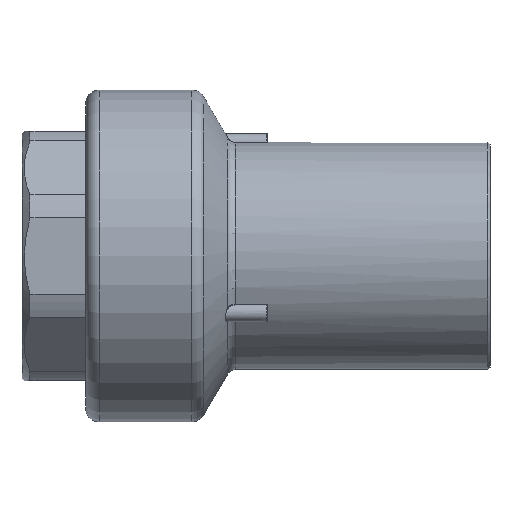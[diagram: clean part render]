
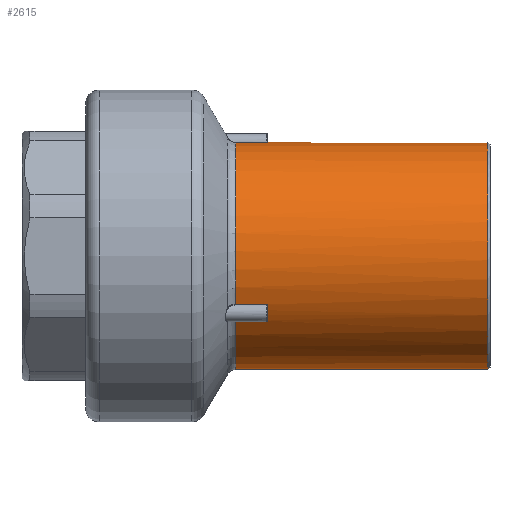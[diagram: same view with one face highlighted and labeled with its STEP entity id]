
A CAD part, front view. The second image highlights one B-rep face of the part: STEP entity #2615.
In plain terms, the highlighted cylindrical face has radius 25 mm (diameter 50 mm), a full revolution.
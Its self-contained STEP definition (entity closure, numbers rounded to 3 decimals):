
#70=B_SPLINE_CURVE_WITH_KNOTS('',3,(#4870,#4871,#4872,#4873),
 .UNSPECIFIED.,.F.,.F.,(4,4),(0.,0.),.UNSPECIFIED.);
#71=B_SPLINE_CURVE_WITH_KNOTS('',3,(#4892,#4893,#4894,#4895),
 .UNSPECIFIED.,.F.,.F.,(4,4),(0.,0.),.UNSPECIFIED.);
#72=B_SPLINE_CURVE_WITH_KNOTS('',3,(#4916,#4917,#4918,#4919),
 .UNSPECIFIED.,.F.,.F.,(4,4),(0.,0.),.UNSPECIFIED.);
#73=B_SPLINE_CURVE_WITH_KNOTS('',3,(#4938,#4939,#4940,#4941),
 .UNSPECIFIED.,.F.,.F.,(4,4),(0.,0.),.UNSPECIFIED.);
#74=B_SPLINE_CURVE_WITH_KNOTS('',3,(#4962,#4963,#4964,#4965),
 .UNSPECIFIED.,.F.,.F.,(4,4),(0.,0.),.UNSPECIFIED.);
#75=B_SPLINE_CURVE_WITH_KNOTS('',3,(#4984,#4985,#4986,#4987),
 .UNSPECIFIED.,.F.,.F.,(4,4),(0.,0.),.UNSPECIFIED.);
#168=LINE('',#4857,#332);
#169=LINE('',#4899,#333);
#170=LINE('',#4903,#334);
#171=LINE('',#4945,#335);
#172=LINE('',#4949,#336);
#173=LINE('',#4991,#337);
#332=VECTOR('',#3866,1000.);
#333=VECTOR('',#3879,1000.);
#334=VECTOR('',#3884,1000.);
#335=VECTOR('',#3897,1000.);
#336=VECTOR('',#3902,1000.);
#337=VECTOR('',#3915,1000.);
#903=ORIENTED_EDGE('',*,*,#1456,.F.);
#904=ORIENTED_EDGE('',*,*,#1448,.T.);
#905=ORIENTED_EDGE('',*,*,#1446,.F.);
#906=ORIENTED_EDGE('',*,*,#1444,.T.);
#907=ORIENTED_EDGE('',*,*,#1442,.F.);
#908=ORIENTED_EDGE('',*,*,#1441,.T.);
#909=ORIENTED_EDGE('',*,*,#1450,.F.);
#910=ORIENTED_EDGE('',*,*,#1439,.T.);
#911=ORIENTED_EDGE('',*,*,#1437,.F.);
#912=ORIENTED_EDGE('',*,*,#1435,.T.);
#913=ORIENTED_EDGE('',*,*,#1433,.F.);
#914=ORIENTED_EDGE('',*,*,#1432,.T.);
#915=ORIENTED_EDGE('',*,*,#1453,.F.);
#916=ORIENTED_EDGE('',*,*,#1430,.T.);
#917=ORIENTED_EDGE('',*,*,#1428,.F.);
#918=ORIENTED_EDGE('',*,*,#1426,.T.);
#919=ORIENTED_EDGE('',*,*,#1424,.F.);
#920=ORIENTED_EDGE('',*,*,#1423,.T.);
#921=ORIENTED_EDGE('',*,*,#1462,.T.);
#1423=EDGE_CURVE('',#1748,#1746,#168,.T.);
#1424=EDGE_CURVE('',#1748,#1749,#70,.T.);
#1426=EDGE_CURVE('',#1750,#1749,#1957,.F.);
#1428=EDGE_CURVE('',#1750,#1751,#71,.T.);
#1430=EDGE_CURVE('',#1741,#1751,#169,.F.);
#1432=EDGE_CURVE('',#1752,#1736,#170,.T.);
#1433=EDGE_CURVE('',#1752,#1753,#72,.T.);
#1435=EDGE_CURVE('',#1754,#1753,#1962,.F.);
#1437=EDGE_CURVE('',#1754,#1755,#73,.T.);
#1439=EDGE_CURVE('',#1733,#1755,#171,.F.);
#1441=EDGE_CURVE('',#1756,#1728,#172,.T.);
#1442=EDGE_CURVE('',#1756,#1757,#74,.T.);
#1444=EDGE_CURVE('',#1758,#1757,#1967,.F.);
#1446=EDGE_CURVE('',#1758,#1759,#75,.T.);
#1448=EDGE_CURVE('',#1745,#1759,#173,.F.);
#1450=EDGE_CURVE('',#1733,#1728,#1970,.T.);
#1453=EDGE_CURVE('',#1741,#1736,#1972,.T.);
#1456=EDGE_CURVE('',#1745,#1746,#1974,.T.);
#1462=EDGE_CURVE('',#1764,#1764,#1980,.F.);
#1728=VERTEX_POINT('',#4678);
#1733=VERTEX_POINT('',#4711);
#1736=VERTEX_POINT('',#4750);
#1741=VERTEX_POINT('',#4783);
#1745=VERTEX_POINT('',#4824);
#1746=VERTEX_POINT('',#4846);
#1748=VERTEX_POINT('',#4856);
#1749=VERTEX_POINT('',#4874);
#1750=VERTEX_POINT('',#4878);
#1751=VERTEX_POINT('',#4896);
#1752=VERTEX_POINT('',#4902);
#1753=VERTEX_POINT('',#4920);
#1754=VERTEX_POINT('',#4924);
#1755=VERTEX_POINT('',#4942);
#1756=VERTEX_POINT('',#4948);
#1757=VERTEX_POINT('',#4966);
#1758=VERTEX_POINT('',#4970);
#1759=VERTEX_POINT('',#4988);
#1764=VERTEX_POINT('',#5100);
#1957=CIRCLE('',#3347,25.);
#1962=CIRCLE('',#3355,25.);
#1967=CIRCLE('',#3363,25.);
#1970=CIRCLE('',#3368,25.);
#1972=CIRCLE('',#3371,25.);
#1974=CIRCLE('',#3374,25.);
#1980=CIRCLE('',#3386,25.);
#2164=EDGE_LOOP('',(#903,#904,#905,#906,#907,#908,#909,#910,#911,#912,#913,
#914,#915,#916,#917,#918,#919,#920));
#2165=EDGE_LOOP('',(#921));
#2380=FACE_BOUND('',#2164,.T.);
#2381=FACE_BOUND('',#2165,.T.);
#2505=CYLINDRICAL_SURFACE('',#3385,25.);
#2615=ADVANCED_FACE('',(#2380,#2381),#2505,.T.);
#3347=AXIS2_PLACEMENT_3D('',#4877,#3871,#3872);
#3355=AXIS2_PLACEMENT_3D('',#4923,#3889,#3890);
#3363=AXIS2_PLACEMENT_3D('',#4969,#3907,#3908);
#3368=AXIS2_PLACEMENT_3D('',#5021,#3918,#3919);
#3371=AXIS2_PLACEMENT_3D('',#5052,#3924,#3925);
#3374=AXIS2_PLACEMENT_3D('',#5083,#3930,#3931);
#3385=AXIS2_PLACEMENT_3D('',#5098,#3952,#3953);
#3386=AXIS2_PLACEMENT_3D('',#5099,#3954,#3955);
#3866=DIRECTION('',(-1.,0.,0.));
#3871=DIRECTION('',(-1.,0.,0.));
#3872=DIRECTION('',(0.,0.5,0.866));
#3879=DIRECTION('',(-1.,0.,0.));
#3884=DIRECTION('',(-1.,0.,0.));
#3889=DIRECTION('',(-1.,0.,0.));
#3890=DIRECTION('',(0.,0.5,-0.866));
#3897=DIRECTION('',(-1.,0.,0.));
#3902=DIRECTION('',(-1.,0.,0.));
#3907=DIRECTION('',(-1.,0.,0.));
#3908=DIRECTION('',(0.,-1.,0.));
#3915=DIRECTION('',(-1.,0.,0.));
#3918=DIRECTION('',(-1.,0.,0.));
#3919=DIRECTION('',(0.,0.,1.));
#3924=DIRECTION('',(-1.,0.,0.));
#3925=DIRECTION('',(0.,0.,1.));
#3930=DIRECTION('',(-1.,0.,0.));
#3931=DIRECTION('',(0.,0.,1.));
#3952=DIRECTION('',(-1.,0.,0.));
#3953=DIRECTION('',(0.,0.,1.));
#3954=DIRECTION('',(1.,0.,0.));
#3955=DIRECTION('',(0.,0.,-1.));
#4678=CARTESIAN_POINT('',(33.,-2.09,24.913));
#4711=CARTESIAN_POINT('',(33.,-22.62,-10.647));
#4750=CARTESIAN_POINT('',(33.,-20.53,-14.266));
#4783=CARTESIAN_POINT('',(33.,20.53,-14.266));
#4824=CARTESIAN_POINT('',(33.,2.09,24.913));
#4846=CARTESIAN_POINT('',(33.,22.62,-10.647));
#4856=CARTESIAN_POINT('',(39.9,22.62,-10.647));
#4857=CARTESIAN_POINT('',(-60.,22.62,-10.647));
#4870=CARTESIAN_POINT('',(39.9,22.62,-10.647));
#4871=CARTESIAN_POINT('',(40.006,22.62,-10.647));
#4872=CARTESIAN_POINT('',(40.1,22.579,-10.733));
#4873=CARTESIAN_POINT('',(40.1,22.533,-10.828));
#4874=CARTESIAN_POINT('',(40.1,22.533,-10.828));
#4877=CARTESIAN_POINT('',(40.1,0.,0.));
#4878=CARTESIAN_POINT('',(40.1,20.644,-14.1));
#4892=CARTESIAN_POINT('',(40.1,20.644,-14.1));
#4893=CARTESIAN_POINT('',(40.1,20.584,-14.188));
#4894=CARTESIAN_POINT('',(40.006,20.53,-14.266));
#4895=CARTESIAN_POINT('',(39.9,20.53,-14.266));
#4896=CARTESIAN_POINT('',(39.9,20.53,-14.266));
#4899=CARTESIAN_POINT('',(-60.,20.53,-14.266));
#4902=CARTESIAN_POINT('',(39.9,-20.53,-14.266));
#4903=CARTESIAN_POINT('',(-60.,-20.53,-14.266));
#4916=CARTESIAN_POINT('',(39.9,-20.53,-14.266));
#4917=CARTESIAN_POINT('',(40.006,-20.53,-14.266));
#4918=CARTESIAN_POINT('',(40.1,-20.584,-14.188));
#4919=CARTESIAN_POINT('',(40.1,-20.644,-14.1));
#4920=CARTESIAN_POINT('',(40.1,-20.644,-14.1));
#4923=CARTESIAN_POINT('',(40.1,0.,0.));
#4924=CARTESIAN_POINT('',(40.1,-22.533,-10.828));
#4938=CARTESIAN_POINT('',(40.1,-22.533,-10.828));
#4939=CARTESIAN_POINT('',(40.1,-22.579,-10.733));
#4940=CARTESIAN_POINT('',(40.006,-22.62,-10.647));
#4941=CARTESIAN_POINT('',(39.9,-22.62,-10.647));
#4942=CARTESIAN_POINT('',(39.9,-22.62,-10.647));
#4945=CARTESIAN_POINT('',(-60.,-22.62,-10.647));
#4948=CARTESIAN_POINT('',(39.9,-2.09,24.913));
#4949=CARTESIAN_POINT('',(-60.,-2.09,24.913));
#4962=CARTESIAN_POINT('',(39.9,-2.09,24.913));
#4963=CARTESIAN_POINT('',(40.006,-2.09,24.913));
#4964=CARTESIAN_POINT('',(40.1,-1.995,24.921));
#4965=CARTESIAN_POINT('',(40.1,-1.889,24.929));
#4966=CARTESIAN_POINT('',(40.1,-1.889,24.929));
#4969=CARTESIAN_POINT('',(40.1,0.,0.));
#4970=CARTESIAN_POINT('',(40.1,1.889,24.929));
#4984=CARTESIAN_POINT('',(40.1,1.889,24.929));
#4985=CARTESIAN_POINT('',(40.1,1.995,24.921));
#4986=CARTESIAN_POINT('',(40.006,2.09,24.913));
#4987=CARTESIAN_POINT('',(39.9,2.09,24.913));
#4988=CARTESIAN_POINT('',(39.9,2.09,24.913));
#4991=CARTESIAN_POINT('',(-60.,2.09,24.913));
#5021=CARTESIAN_POINT('',(33.,0.,0.));
#5052=CARTESIAN_POINT('',(33.,0.,0.));
#5083=CARTESIAN_POINT('',(33.,0.,0.));
#5098=CARTESIAN_POINT('',(-60.,0.,0.));
#5099=CARTESIAN_POINT('',(88.5,0.,0.));
#5100=CARTESIAN_POINT('',(88.5,0.,-25.));
